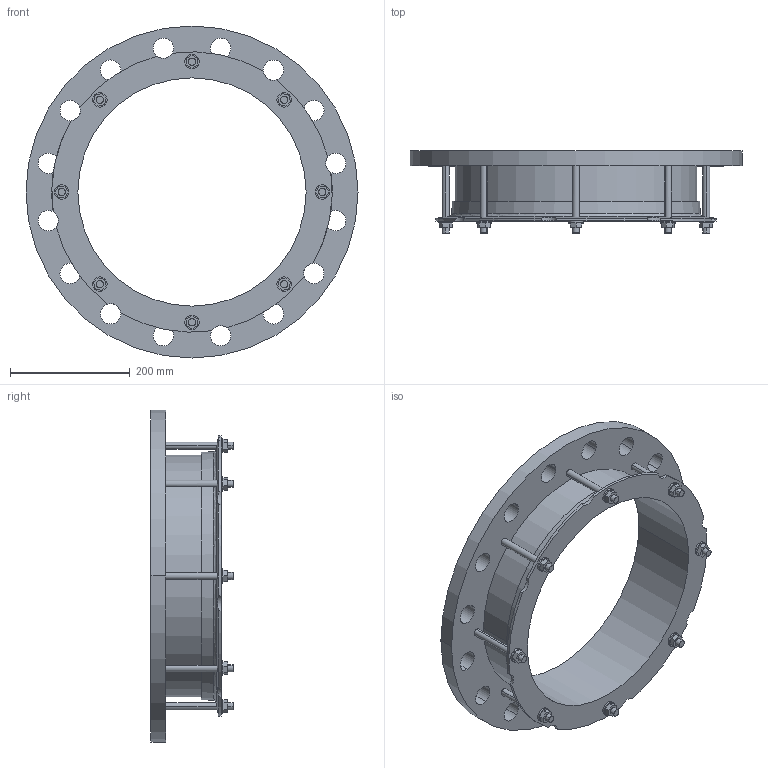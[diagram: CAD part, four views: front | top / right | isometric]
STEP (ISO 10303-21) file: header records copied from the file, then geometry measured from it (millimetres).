
FILE_DESCRIPTION((''),'2;1');
FILE_NAME('378X350PN25_8NOT','2019-04-04T',('mfairey'),('Glynwed Pipe Systems'),'CREO PARAMETRIC BY PTC INC, 2016130','CREO PARAMETRIC BY PTC INC, 2016130','');
FILE_SCHEMA(('CONFIG_CONTROL_DESIGN'));
Length unit declared in the file: millimetre
Products named in the file (1): 378X350PN25_8NOT
Bounding box: 555 x 137.45 x 555 mm (x, y, z)
Volume: 4688752.3 mm3; surface area: 684576.9 mm2
Topology: 1 solids, 1 shells, 184 faces, 490 edges, 326 vertices
Faces by surface type: cylinder 102, plane 76, cone 4, torus 2
Entity records: 6466 total; most frequent: CARTESIAN_POINT 1622, DIRECTION 1010, ORIENTED_EDGE 980, EDGE_CURVE 490, AXIS2_PLACEMENT_3D 380, VERTEX_POINT 326, EDGE_LOOP 252, VECTOR 250
